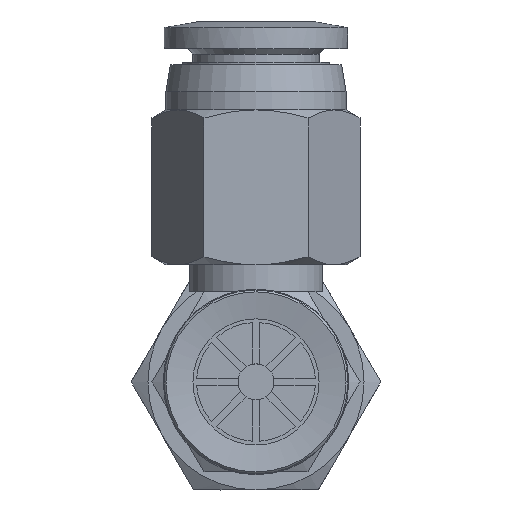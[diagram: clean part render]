
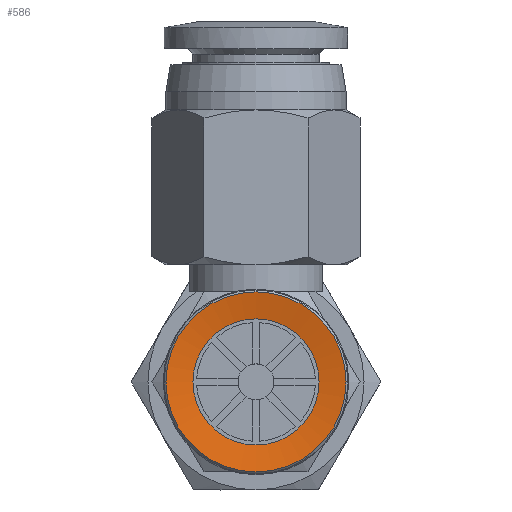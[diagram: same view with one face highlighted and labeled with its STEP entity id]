
A CAD part, front view. The second image highlights one B-rep face of the part: STEP entity #586.
In plain terms, the highlighted conical face has half-angle 80 degrees and reference radius 5 mm.
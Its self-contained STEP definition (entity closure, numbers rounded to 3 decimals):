
#586=ADVANCED_FACE('',(#963,#964),#965,.F.);
#963=FACE_BOUND('',#1426,.T.);
#964=FACE_OUTER_BOUND('',#1427,.T.);
#965=CONICAL_SURFACE('',#1428,5.0,1.396);
#1426=EDGE_LOOP('',(#2669));
#1427=EDGE_LOOP('',(#2670));
#1428=AXIS2_PLACEMENT_3D('',#2671,#2672,#2673);
#2669=ORIENTED_EDGE('',*,*,#3322,.T.);
#2670=ORIENTED_EDGE('',*,*,#3248,.F.);
#2671=CARTESIAN_POINT('',(0.0,-20.749,0.));
#2672=DIRECTION('',(0.0,0.,-1.0));
#2673=DIRECTION('',(0.0,1.0,0.));
#3248=EDGE_CURVE('',#3739,#3739,#3740,.T.);
#3322=EDGE_CURVE('',#3869,#3869,#3870,.T.);
#3739=VERTEX_POINT('',#4755);
#3740=CIRCLE('',#4756,5.0);
#3869=VERTEX_POINT('',#4925);
#3870=CIRCLE('',#4926,3.5);
#4755=CARTESIAN_POINT('',(0.0,-25.749,0.));
#4756=AXIS2_PLACEMENT_3D('',#5696,#5697,#5698);
#4925=CARTESIAN_POINT('',(0.0,-24.249,0.264));
#4926=AXIS2_PLACEMENT_3D('',#5838,#5839,#5840);
#5696=CARTESIAN_POINT('',(0.0,-20.749,0.));
#5697=DIRECTION('',(0.0,0.,1.0));
#5698=DIRECTION('',(0.0,-1.0,0.));
#5838=CARTESIAN_POINT('',(0.0,-20.749,0.264));
#5839=DIRECTION('',(0.0,0.,1.0));
#5840=DIRECTION('',(0.0,-1.0,0.));
